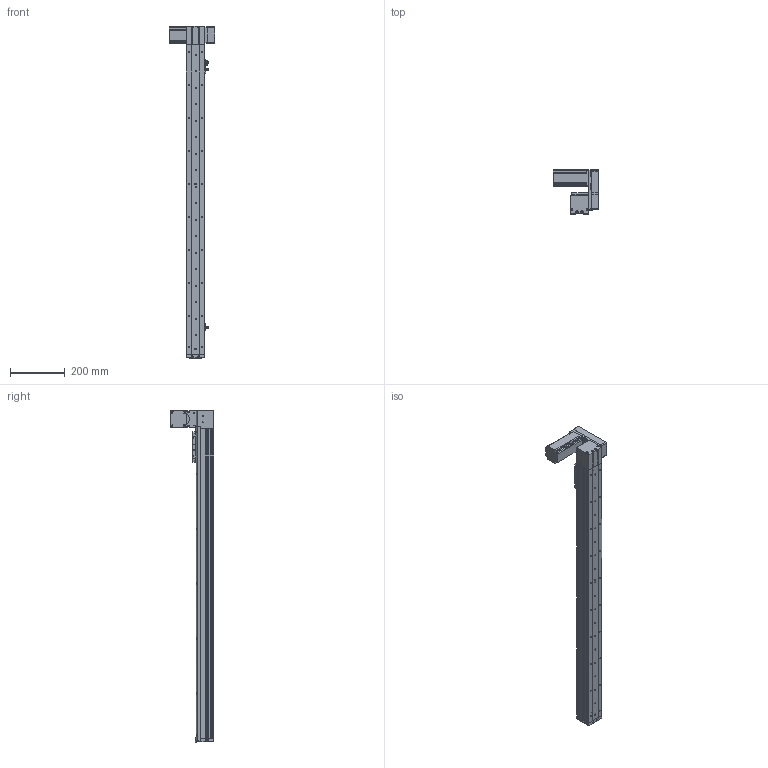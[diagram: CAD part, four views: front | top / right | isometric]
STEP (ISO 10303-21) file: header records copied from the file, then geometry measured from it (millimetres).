
FILE_DESCRIPTION (( 'STEP AP214' ), '1' );
FILE_NAME ('KSD68BS-S950-MLU-CR.STEP', '2019-11-07T07:43:37', ( '微软用户' ), ( '微软中国' ), 'SwSTEP 2.0', 'SolidWorks 2014', '' );
FILE_SCHEMA (( 'AUTOMOTIVE_DESIGN' ));
Length unit declared in the file: millimetre
Products named in the file (14): KSD68BS 950行程盖板全封闭; 68宽单导轨全封闭丝杆传动安装板1防护罩; KSD68BS 950行程侧板全封闭; 68宽单导轨全封闭同步带端板; 68单导轨全封闭同步带电机座左; 68单导轨全封闭同步带安装板; 悵誘欶奻狟殏; 68宽马达安装板连板上折同步带; 感应片68宽全封闭; U倰嫖萇EEㄜSX672; 台达ECMA－C20604AS伺服电机（400W); KSD68BS 950行程底板全封闭; 68遵裔啣揤啣1; KSD68BS-S950-MLU-CR
Assembly tree (17 placements, depth 2):
  KSD68BS-S950-MLU-CR
    KSD68BS 950行程底板全封闭
    台达ECMA－C20604AS伺服电机（400W)
    U倰嫖萇EEㄜSX672  x3
    感应片68宽全封闭
    68宽马达安装板连板上折同步带
    悵誘欶奻狟殏
    68单导轨全封闭同步带安装板
    68单导轨全封闭同步带电机座左
    68宽单导轨全封闭同步带端板
    KSD68BS 950行程侧板全封闭  x2
    68宽单导轨全封闭丝杆传动安装板1防护罩
    68遵裔啣揤啣1  x2
    KSD68BS 950行程盖板全封闭
Bounding box: 167.2 x 159.5 x 1208.1 mm (x, y, z)
Volume: 2468445 mm3; surface area: 940764 mm2
Topology: 18 solids, 18 shells, 1523 faces, 4333 edges, 2770 vertices
Faces by surface type: cylinder 726, plane 629, cone 168
Entity records: 48367 total; most frequent: CARTESIAN_POINT 8345, DIRECTION 7232, ORIENTED_EDGE 6918, EDGE_CURVE 3459, AXIS2_PLACEMENT_3D 2613, VERTEX_POINT 2268, VECTOR 2006, LINE 2006
